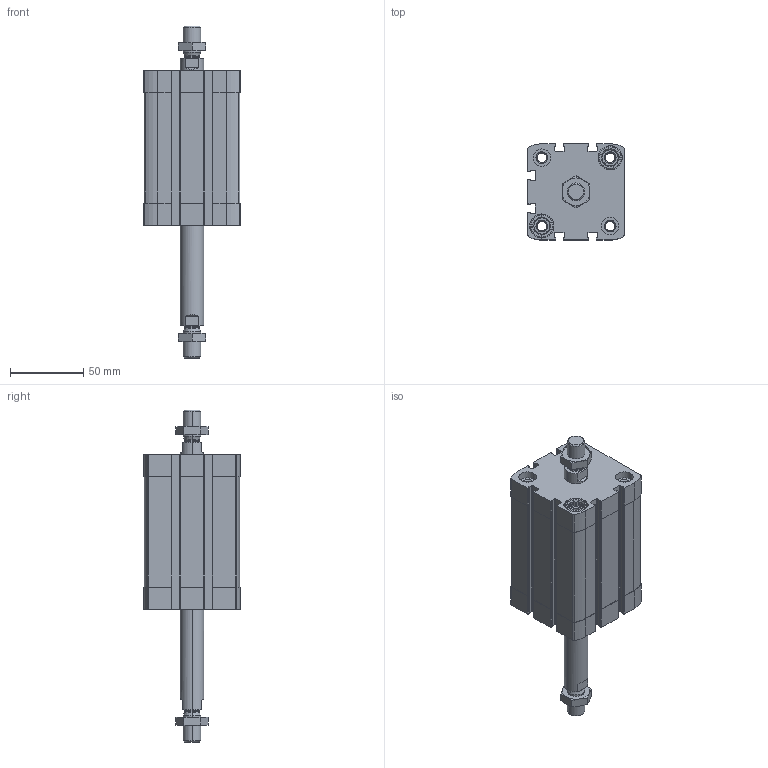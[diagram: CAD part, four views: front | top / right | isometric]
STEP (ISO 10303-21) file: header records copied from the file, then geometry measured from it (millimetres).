
FILE_DESCRIPTION (( 'STEP AP203' ), '1' );
FILE_NAME ('CCN50-60-P.STEP', '2020-06-22T18:58:20', ( '' ), ( '' ), 'SwSTEP 2.0', 'SolidWorks 2019', '' );
FILE_SCHEMA (( 'CONFIG_CONTROL_DESIGN' ));
Length unit declared in the file: millimetre
Products named in the file (1): CCN50-60-P
Bounding box: 65.5 x 65.5 x 226 mm (x, y, z)
Volume: 319200.3 mm3; surface area: 89176.6 mm2
Topology: 4 solids, 4 shells, 528 faces, 1392 edges, 904 vertices
Faces by surface type: plane 240, cylinder 220, cone 60, torus 8
Entity records: 17219 total; most frequent: CARTESIAN_POINT 3821, DIRECTION 2842, ORIENTED_EDGE 2784, EDGE_CURVE 1392, AXIS2_PLACEMENT_3D 1045, VERTEX_POINT 904, VECTOR 752, LINE 752
